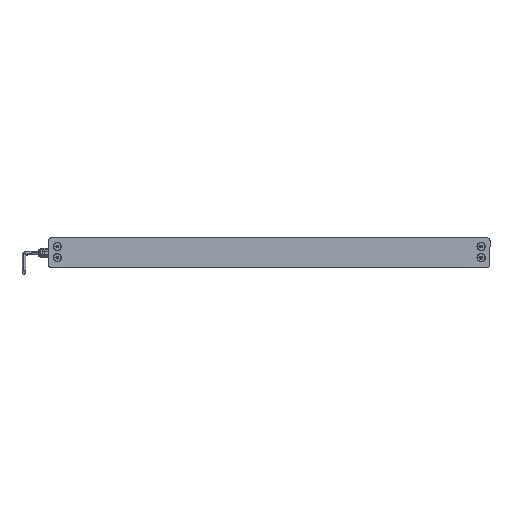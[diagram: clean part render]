
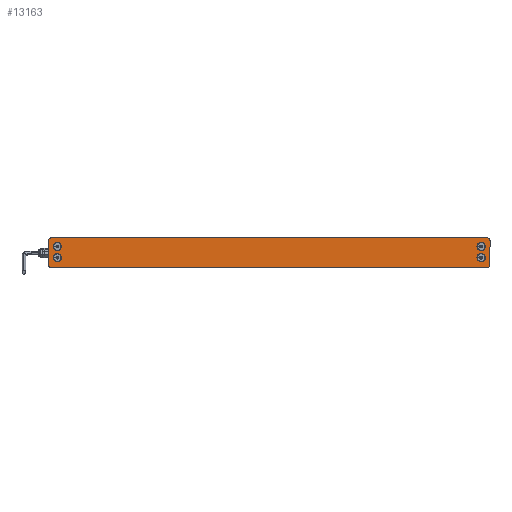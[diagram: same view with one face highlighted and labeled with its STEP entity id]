
A CAD part, left-side view. The second image highlights one B-rep face of the part: STEP entity #13163.
In plain terms, the highlighted planar face has unit normal (-1, 0, 0) as drawn and (0, 0, -1) by its records, which use the part's own axes.
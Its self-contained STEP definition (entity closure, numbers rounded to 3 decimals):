
#13 = EDGE_CURVE ( 'NONE', #12299, #8872, #14244, .T. ) ;
#94 = CARTESIAN_POINT ( 'NONE',  ( -293., -16., 0. ) ) ;
#130 = CARTESIAN_POINT ( 'NONE',  ( 275.7, -6.3, 0. ) ) ;
#157 = DIRECTION ( 'NONE',  ( 0., 1., 0. ) ) ;
#174 = DIRECTION ( 'NONE',  ( -1., 0., 0. ) ) ;
#263 = CARTESIAN_POINT ( 'NONE',  ( 281.3, 8.5, 0. ) ) ;
#296 = DIRECTION ( 'NONE',  ( 1., 0., 0. ) ) ;
#464 = CARTESIAN_POINT ( 'NONE',  ( 293., -16., 0. ) ) ;
#542 = VERTEX_POINT ( 'NONE', #3525 ) ;
#878 = ORIENTED_EDGE ( 'NONE', *, *, #10057, .F. ) ;
#1061 = EDGE_CURVE ( 'NONE', #12342, #14171, #7094, .T. ) ;
#1280 = CARTESIAN_POINT ( 'NONE',  ( 289., 20., 0. ) ) ;
#1398 = EDGE_CURVE ( 'NONE', #10990, #7646, #7665, .T. ) ;
#1591 = AXIS2_PLACEMENT_3D ( 'NONE', #10998, #2937, #296 ) ;
#1665 = AXIS2_PLACEMENT_3D ( 'NONE', #5199, #10479, #2338 ) ;
#1670 = CARTESIAN_POINT ( 'NONE',  ( -289., -16., 0. ) ) ;
#1762 = ORIENTED_EDGE ( 'NONE', *, *, #6494, .F. ) ;
#1763 = EDGE_LOOP ( 'NONE', ( #16962, #6308 ) ) ;
#1855 = EDGE_CURVE ( 'NONE', #14578, #11941, #13745, .T. ) ;
#1998 = DIRECTION ( 'NONE',  ( 0., 0., -1. ) ) ;
#2007 = ORIENTED_EDGE ( 'NONE', *, *, #7889, .F. ) ;
#2208 = DIRECTION ( 'NONE',  ( -1., 0., 0. ) ) ;
#2338 = DIRECTION ( 'NONE',  ( -1., 0., 0. ) ) ;
#2422 = AXIS2_PLACEMENT_3D ( 'NONE', #12579, #4797, #6172 ) ;
#2424 = CIRCLE ( 'NONE', #1591, 4. ) ;
#2428 = CARTESIAN_POINT ( 'NONE',  ( 289., -20., 0. ) ) ;
#2789 = ORIENTED_EDGE ( 'NONE', *, *, #14640, .F. ) ;
#2907 = DIRECTION ( 'NONE',  ( 0., 0., -1. ) ) ;
#2937 = DIRECTION ( 'NONE',  ( 0., 0., 1. ) ) ;
#3081 = EDGE_LOOP ( 'NONE', ( #2789, #9440 ) ) ;
#3141 = VERTEX_POINT ( 'NONE', #2428 ) ;
#3417 = LINE ( 'NONE', #6019, #14099 ) ;
#3456 = CARTESIAN_POINT ( 'NONE',  ( -281.3, 8.5, 0. ) ) ;
#3525 = CARTESIAN_POINT ( 'NONE',  ( 286.9, 8.5, 0. ) ) ;
#3686 = ORIENTED_EDGE ( 'NONE', *, *, #12749, .F. ) ;
#3716 = PLANE ( 'NONE',  #1665 ) ;
#3805 = CIRCLE ( 'NONE', #10729, 5.6 ) ;
#3822 = VECTOR ( 'NONE', #157, 1000. ) ;
#3926 = CARTESIAN_POINT ( 'NONE',  ( -281.3, 8.5, 0. ) ) ;
#4331 = DIRECTION ( 'NONE',  ( -1., 0., 0. ) ) ;
#4350 = DIRECTION ( 'NONE',  ( -1., 0., 0. ) ) ;
#4474 = EDGE_CURVE ( 'NONE', #542, #11007, #12799, .T. ) ;
#4797 = DIRECTION ( 'NONE',  ( 0., 0., 1. ) ) ;
#4929 = DIRECTION ( 'NONE',  ( -1., 0., 0. ) ) ;
#4974 = CARTESIAN_POINT ( 'NONE',  ( 281.3, -6.3, 0. ) ) ;
#4993 = ORIENTED_EDGE ( 'NONE', *, *, #8251, .F. ) ;
#5199 = CARTESIAN_POINT ( 'NONE',  ( 289., 16., 0. ) ) ;
#5541 = EDGE_CURVE ( 'NONE', #3141, #10164, #2424, .T. ) ;
#5706 = CARTESIAN_POINT ( 'NONE',  ( 281.3, -6.3, 0. ) ) ;
#5721 = CIRCLE ( 'NONE', #12078, 5.6 ) ;
#5974 = DIRECTION ( 'NONE',  ( 0., 0., -1. ) ) ;
#6019 = CARTESIAN_POINT ( 'NONE',  ( -289., 20., 0. ) ) ;
#6172 = DIRECTION ( 'NONE',  ( -1., 0., 0. ) ) ;
#6271 = AXIS2_PLACEMENT_3D ( 'NONE', #14781, #9430, #14870 ) ;
#6308 = ORIENTED_EDGE ( 'NONE', *, *, #11749, .F. ) ;
#6324 = FACE_BOUND ( 'NONE', #10943, .T. ) ;
#6392 = CARTESIAN_POINT ( 'NONE',  ( 286.9, -6.3, 0. ) ) ;
#6494 = EDGE_CURVE ( 'NONE', #10164, #12299, #15889, .T. ) ;
#6633 = ORIENTED_EDGE ( 'NONE', *, *, #12121, .F. ) ;
#7094 = CIRCLE ( 'NONE', #16752, 5.6 ) ;
#7199 = AXIS2_PLACEMENT_3D ( 'NONE', #263, #2907, #174 ) ;
#7354 = CARTESIAN_POINT ( 'NONE',  ( -289., -20., 0. ) ) ;
#7376 = LINE ( 'NONE', #8519, #7941 ) ;
#7413 = AXIS2_PLACEMENT_3D ( 'NONE', #1670, #12221, #4350 ) ;
#7646 = VERTEX_POINT ( 'NONE', #7937 ) ;
#7665 = CIRCLE ( 'NONE', #6271, 5.6 ) ;
#7749 = ORIENTED_EDGE ( 'NONE', *, *, #5541, .F. ) ;
#7807 = VERTEX_POINT ( 'NONE', #130 ) ;
#7822 = DIRECTION ( 'NONE',  ( 0., 0., -1. ) ) ;
#7889 = EDGE_CURVE ( 'NONE', #14906, #14578, #7376, .T. ) ;
#7937 = CARTESIAN_POINT ( 'NONE',  ( -275.7, -6.3, 0. ) ) ;
#7941 = VECTOR ( 'NONE', #16622, 1000. ) ;
#8115 = CARTESIAN_POINT ( 'NONE',  ( -293., 16., 0. ) ) ;
#8251 = EDGE_CURVE ( 'NONE', #14511, #7807, #5721, .T. ) ;
#8293 = LINE ( 'NONE', #13545, #17079 ) ;
#8294 = CARTESIAN_POINT ( 'NONE',  ( -286.9, -6.3, 0. ) ) ;
#8519 = CARTESIAN_POINT ( 'NONE',  ( -293., -16., 0. ) ) ;
#8644 = CARTESIAN_POINT ( 'NONE',  ( 275.7, 8.5, 0. ) ) ;
#8713 = CARTESIAN_POINT ( 'NONE',  ( 293., 16., 0. ) ) ;
#8870 = DIRECTION ( 'NONE',  ( -1., 0., 0. ) ) ;
#8872 = VERTEX_POINT ( 'NONE', #1280 ) ;
#9160 = EDGE_LOOP ( 'NONE', ( #3686, #4993 ) ) ;
#9430 = DIRECTION ( 'NONE',  ( 0., 0., -1. ) ) ;
#9440 = ORIENTED_EDGE ( 'NONE', *, *, #4474, .F. ) ;
#9538 = DIRECTION ( 'NONE',  ( 0., 0., -1. ) ) ;
#9891 = CIRCLE ( 'NONE', #2422, 4. ) ;
#10057 = EDGE_CURVE ( 'NONE', #14284, #14906, #9891, .T. ) ;
#10164 = VERTEX_POINT ( 'NONE', #464 ) ;
#10210 = CARTESIAN_POINT ( 'NONE',  ( -281.3, -6.3, 0. ) ) ;
#10270 = CIRCLE ( 'NONE', #7199, 5.6 ) ;
#10479 = DIRECTION ( 'NONE',  ( 0., 0., -1. ) ) ;
#10522 = CIRCLE ( 'NONE', #12728, 5.6 ) ;
#10534 = CARTESIAN_POINT ( 'NONE',  ( 293., -16., 0. ) ) ;
#10729 = AXIS2_PLACEMENT_3D ( 'NONE', #10210, #1998, #4929 ) ;
#10745 = ORIENTED_EDGE ( 'NONE', *, *, #15034, .F. ) ;
#10943 = EDGE_LOOP ( 'NONE', ( #12282, #11991 ) ) ;
#10990 = VERTEX_POINT ( 'NONE', #8294 ) ;
#10998 = CARTESIAN_POINT ( 'NONE',  ( 289., -16., 0. ) ) ;
#11007 = VERTEX_POINT ( 'NONE', #8644 ) ;
#11326 = DIRECTION ( 'NONE',  ( -1., 0., 0. ) ) ;
#11674 = FACE_BOUND ( 'NONE', #1763, .T. ) ;
#11706 = DIRECTION ( 'NONE',  ( 0., 0., -1. ) ) ;
#11749 = EDGE_CURVE ( 'NONE', #7646, #10990, #3805, .T. ) ;
#11889 = DIRECTION ( 'NONE',  ( -1., 0., 0. ) ) ;
#11915 = EDGE_LOOP ( 'NONE', ( #14000, #1762, #7749, #6633, #14476, #2007, #878, #10745 ) ) ;
#11941 = VERTEX_POINT ( 'NONE', #7354 ) ;
#11947 = DIRECTION ( 'NONE',  ( 0., 0., 1. ) ) ;
#11991 = ORIENTED_EDGE ( 'NONE', *, *, #15461, .F. ) ;
#12078 = AXIS2_PLACEMENT_3D ( 'NONE', #5706, #15055, #11326 ) ;
#12121 = EDGE_CURVE ( 'NONE', #11941, #3141, #8293, .T. ) ;
#12205 = CARTESIAN_POINT ( 'NONE',  ( 289., 16., 0. ) ) ;
#12221 = DIRECTION ( 'NONE',  ( 0., 0., 1. ) ) ;
#12250 = DIRECTION ( 'NONE',  ( 1., 0., 0. ) ) ;
#12282 = ORIENTED_EDGE ( 'NONE', *, *, #1061, .F. ) ;
#12299 = VERTEX_POINT ( 'NONE', #8713 ) ;
#12342 = VERTEX_POINT ( 'NONE', #13893 ) ;
#12486 = DIRECTION ( 'NONE',  ( -1., 0., 0. ) ) ;
#12579 = CARTESIAN_POINT ( 'NONE',  ( -289., 16., 0. ) ) ;
#12728 = AXIS2_PLACEMENT_3D ( 'NONE', #3456, #5974, #16525 ) ;
#12749 = EDGE_CURVE ( 'NONE', #7807, #14511, #15740, .T. ) ;
#12799 = CIRCLE ( 'NONE', #16119, 5.6 ) ;
#12888 = FACE_BOUND ( 'NONE', #3081, .T. ) ;
#13082 = CARTESIAN_POINT ( 'NONE',  ( -289., 20., 0. ) ) ;
#13163 = ADVANCED_FACE ( 'NONE', ( #12888, #14022, #6324, #11674, #14272 ), #3716, .T. ) ;
#13545 = CARTESIAN_POINT ( 'NONE',  ( -289., -20., 0. ) ) ;
#13605 = CARTESIAN_POINT ( 'NONE',  ( 281.3, 8.5, 0. ) ) ;
#13745 = CIRCLE ( 'NONE', #7413, 4. ) ;
#13893 = CARTESIAN_POINT ( 'NONE',  ( -286.9, 8.5, 0. ) ) ;
#14000 = ORIENTED_EDGE ( 'NONE', *, *, #13, .F. ) ;
#14022 = FACE_BOUND ( 'NONE', #9160, .T. ) ;
#14099 = VECTOR ( 'NONE', #2208, 1000. ) ;
#14171 = VERTEX_POINT ( 'NONE', #16471 ) ;
#14244 = CIRCLE ( 'NONE', #15625, 4. ) ;
#14272 = FACE_OUTER_BOUND ( 'NONE', #11915, .T. ) ;
#14284 = VERTEX_POINT ( 'NONE', #13082 ) ;
#14476 = ORIENTED_EDGE ( 'NONE', *, *, #1855, .F. ) ;
#14511 = VERTEX_POINT ( 'NONE', #6392 ) ;
#14578 = VERTEX_POINT ( 'NONE', #94 ) ;
#14640 = EDGE_CURVE ( 'NONE', #11007, #542, #10270, .T. ) ;
#14781 = CARTESIAN_POINT ( 'NONE',  ( -281.3, -6.3, 0. ) ) ;
#14870 = DIRECTION ( 'NONE',  ( -1., 0., 0. ) ) ;
#14906 = VERTEX_POINT ( 'NONE', #8115 ) ;
#15034 = EDGE_CURVE ( 'NONE', #8872, #14284, #3417, .T. ) ;
#15055 = DIRECTION ( 'NONE',  ( 0., 0., -1. ) ) ;
#15461 = EDGE_CURVE ( 'NONE', #14171, #12342, #10522, .T. ) ;
#15625 = AXIS2_PLACEMENT_3D ( 'NONE', #12205, #11947, #4331 ) ;
#15740 = CIRCLE ( 'NONE', #16574, 5.6 ) ;
#15889 = LINE ( 'NONE', #10534, #3822 ) ;
#16119 = AXIS2_PLACEMENT_3D ( 'NONE', #13605, #9538, #12486 ) ;
#16471 = CARTESIAN_POINT ( 'NONE',  ( -275.7, 8.5, 0. ) ) ;
#16525 = DIRECTION ( 'NONE',  ( -1., 0., 0. ) ) ;
#16574 = AXIS2_PLACEMENT_3D ( 'NONE', #4974, #7822, #8870 ) ;
#16622 = DIRECTION ( 'NONE',  ( 0., -1., 0. ) ) ;
#16752 = AXIS2_PLACEMENT_3D ( 'NONE', #3926, #11706, #11889 ) ;
#16962 = ORIENTED_EDGE ( 'NONE', *, *, #1398, .F. ) ;
#17079 = VECTOR ( 'NONE', #12250, 1000. ) ;
